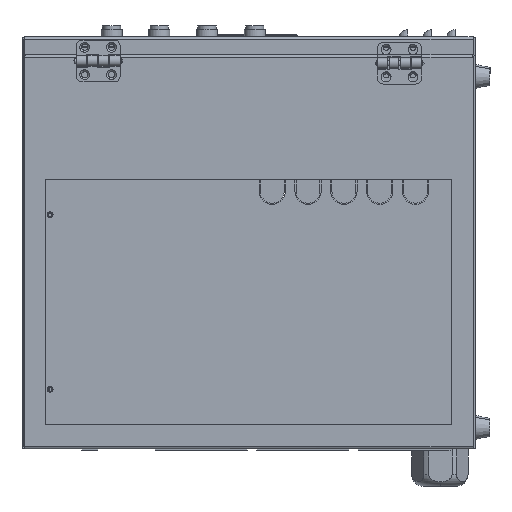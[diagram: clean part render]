
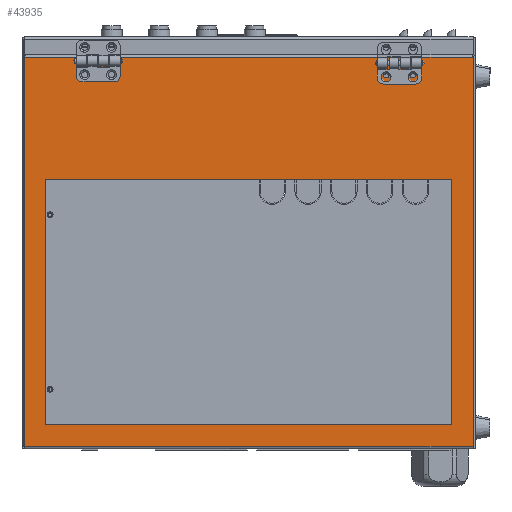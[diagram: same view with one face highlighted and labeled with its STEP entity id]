
A CAD part, left-side view. The second image highlights one B-rep face of the part: STEP entity #43935.
In plain terms, the highlighted planar face has unit normal (-1, 0, 0).
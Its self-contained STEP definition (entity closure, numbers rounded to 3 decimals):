
#479 = EDGE_CURVE ( 'NONE', #2757, #49801, #59360, .T. ) ;
#1553 = ORIENTED_EDGE ( 'NONE', *, *, #32049, .F. ) ;
#2757 = VERTEX_POINT ( 'NONE', #25045 ) ;
#3609 = ORIENTED_EDGE ( 'NONE', *, *, #24372, .T. ) ;
#3792 = PLANE ( 'NONE',  #24082 ) ;
#4038 = EDGE_LOOP ( 'NONE', ( #21659, #1553 ) ) ;
#4255 = EDGE_CURVE ( 'NONE', #49801, #2757, #48436, .T. ) ;
#4327 = CARTESIAN_POINT ( 'NONE',  ( -120., 115., 314.482 ) ) ;
#4613 = LINE ( 'NONE', #62718, #76456 ) ;
#5906 = DIRECTION ( 'NONE',  ( -1., 0., 0. ) ) ;
#6028 = CARTESIAN_POINT ( 'NONE',  ( -120., 115., 309.282 ) ) ;
#7730 = EDGE_CURVE ( 'NONE', #72537, #58974, #54452, .T. ) ;
#7774 = ORIENTED_EDGE ( 'NONE', *, *, #66032, .F. ) ;
#8261 = VECTOR ( 'NONE', #79791, 1000. ) ;
#8353 = EDGE_CURVE ( 'NONE', #13718, #29504, #71639, .T. ) ;
#9880 = ORIENTED_EDGE ( 'NONE', *, *, #8353, .F. ) ;
#10179 = CARTESIAN_POINT ( 'NONE',  ( -120., 115., 311.882 ) ) ;
#10490 = EDGE_CURVE ( 'NONE', #42834, #72487, #35672, .T. ) ;
#10493 = CARTESIAN_POINT ( 'NONE',  ( -120., 190., 0.5 ) ) ;
#13718 = VERTEX_POINT ( 'NONE', #6028 ) ;
#14315 = DIRECTION ( 'NONE',  ( -1., 0., 0. ) ) ;
#14690 = EDGE_CURVE ( 'NONE', #61534, #37778, #82266, .T. ) ;
#16486 = DIRECTION ( 'NONE',  ( -1., 0., 0. ) ) ;
#16555 = DIRECTION ( 'NONE',  ( 0., 1., 0. ) ) ;
#17074 = DIRECTION ( 'NONE',  ( 0., 0., 1. ) ) ;
#17254 = FACE_BOUND ( 'NONE', #25026, .T. ) ;
#17410 = AXIS2_PLACEMENT_3D ( 'NONE', #56005, #14315, #63031 ) ;
#17499 = ORIENTED_EDGE ( 'NONE', *, *, #4255, .F. ) ;
#17723 = DIRECTION ( 'NONE',  ( -1., 0., 0. ) ) ;
#18336 = EDGE_LOOP ( 'NONE', ( #66824, #80311, #44048, #3609 ) ) ;
#18762 = LINE ( 'NONE', #23534, #51467 ) ;
#18891 = AXIS2_PLACEMENT_3D ( 'NONE', #47555, #5906, #54537 ) ;
#19098 = CARTESIAN_POINT ( 'NONE',  ( -120., 170., 224.5 ) ) ;
#19534 = CARTESIAN_POINT ( 'NONE',  ( -120., -115., 311.882 ) ) ;
#20028 = CARTESIAN_POINT ( 'NONE',  ( -120., -170., 18.5 ) ) ;
#20076 = AXIS2_PLACEMENT_3D ( 'NONE', #66561, #24835, #73564 ) ;
#21659 = ORIENTED_EDGE ( 'NONE', *, *, #10490, .F. ) ;
#21978 = CARTESIAN_POINT ( 'NONE',  ( -120., -187.793, 326.5 ) ) ;
#23494 = ORIENTED_EDGE ( 'NONE', *, *, #51466, .F. ) ;
#23534 = CARTESIAN_POINT ( 'NONE',  ( -120., -187.793, 326.5 ) ) ;
#24082 = AXIS2_PLACEMENT_3D ( 'NONE', #66429, #80473, #38704 ) ;
#24090 = DIRECTION ( 'NONE',  ( 0., 1., 0. ) ) ;
#24372 = EDGE_CURVE ( 'NONE', #81002, #46876, #4613, .T. ) ;
#24835 = DIRECTION ( 'NONE',  ( -1., 0., 0. ) ) ;
#24846 = AXIS2_PLACEMENT_3D ( 'NONE', #74717, #32956, #81742 ) ;
#25026 = EDGE_LOOP ( 'NONE', ( #31486, #17499 ) ) ;
#25045 = CARTESIAN_POINT ( 'NONE',  ( -120., 137.5, 314.482 ) ) ;
#26539 = DIRECTION ( 'NONE',  ( 0., 0., 1. ) ) ;
#27191 = ORIENTED_EDGE ( 'NONE', *, *, #80370, .F. ) ;
#27913 = VECTOR ( 'NONE', #48568, 1000. ) ;
#27955 = DIRECTION ( 'NONE',  ( 0., 0., 1. ) ) ;
#29504 = VERTEX_POINT ( 'NONE', #4327 ) ;
#29514 = ORIENTED_EDGE ( 'NONE', *, *, #7730, .F. ) ;
#30428 = CIRCLE ( 'NONE', #44884, 2.6 ) ;
#31308 = CARTESIAN_POINT ( 'NONE',  ( -120., 187.793, 0. ) ) ;
#31486 = ORIENTED_EDGE ( 'NONE', *, *, #479, .F. ) ;
#32049 = EDGE_CURVE ( 'NONE', #72487, #42834, #55899, .T. ) ;
#32956 = DIRECTION ( 'NONE',  ( -1., 0., 0. ) ) ;
#33378 = CARTESIAN_POINT ( 'NONE',  ( -120., 170., 224.5 ) ) ;
#33981 = EDGE_CURVE ( 'NONE', #29504, #13718, #30428, .T. ) ;
#34587 = CARTESIAN_POINT ( 'NONE',  ( -120., 137.5, 309.282 ) ) ;
#35436 = EDGE_LOOP ( 'NONE', ( #7774, #27191, #29514, #67608 ) ) ;
#35534 = LINE ( 'NONE', #10493, #72618 ) ;
#35672 = CIRCLE ( 'NONE', #38353, 2.6 ) ;
#35691 = ORIENTED_EDGE ( 'NONE', *, *, #85279, .F. ) ;
#35739 = FACE_BOUND ( 'NONE', #74892, .T. ) ;
#36506 = VECTOR ( 'NONE', #89138, 1000. ) ;
#37778 = VERTEX_POINT ( 'NONE', #66308 ) ;
#38353 = AXIS2_PLACEMENT_3D ( 'NONE', #58215, #16486, #65202 ) ;
#38570 = CARTESIAN_POINT ( 'NONE',  ( -120., 187.793, 0.5 ) ) ;
#38704 = DIRECTION ( 'NONE',  ( 0., 0., -1. ) ) ;
#40176 = FACE_BOUND ( 'NONE', #62663, .T. ) ;
#41315 = LINE ( 'NONE', #72181, #76180 ) ;
#41843 = CARTESIAN_POINT ( 'NONE',  ( -120., 170., 18.5 ) ) ;
#42834 = VERTEX_POINT ( 'NONE', #57118 ) ;
#43935 = ADVANCED_FACE ( 'NONE', ( #75039, #72833, #40176, #54315, #35739, #17254 ), #3792, .F. ) ;
#44048 = ORIENTED_EDGE ( 'NONE', *, *, #75061, .F. ) ;
#44155 = CARTESIAN_POINT ( 'NONE',  ( -120., 170., 18.5 ) ) ;
#44446 = VERTEX_POINT ( 'NONE', #84267 ) ;
#44884 = AXIS2_PLACEMENT_3D ( 'NONE', #59482, #17723, #66446 ) ;
#46141 = AXIS2_PLACEMENT_3D ( 'NONE', #10179, #58816, #17074 ) ;
#46167 = VERTEX_POINT ( 'NONE', #19098 ) ;
#46876 = VERTEX_POINT ( 'NONE', #21978 ) ;
#47555 = CARTESIAN_POINT ( 'NONE',  ( -120., -137.5, 311.882 ) ) ;
#48436 = CIRCLE ( 'NONE', #20076, 2.6 ) ;
#48568 = DIRECTION ( 'NONE',  ( 0., 0., -1. ) ) ;
#49094 = CIRCLE ( 'NONE', #18891, 2.6 ) ;
#49801 = VERTEX_POINT ( 'NONE', #34587 ) ;
#50434 = VERTEX_POINT ( 'NONE', #88511 ) ;
#51142 = AXIS2_PLACEMENT_3D ( 'NONE', #19534, #68261, #26539 ) ;
#51466 = EDGE_CURVE ( 'NONE', #50434, #71452, #49094, .T. ) ;
#51467 = VECTOR ( 'NONE', #16555, 1000. ) ;
#53784 = CARTESIAN_POINT ( 'NONE',  ( -120., -137.5, 309.282 ) ) ;
#54315 = FACE_BOUND ( 'NONE', #4038, .T. ) ;
#54452 = LINE ( 'NONE', #61684, #89297 ) ;
#54537 = DIRECTION ( 'NONE',  ( 0., 0., 1. ) ) ;
#55899 = CIRCLE ( 'NONE', #51142, 2.6 ) ;
#56005 = CARTESIAN_POINT ( 'NONE',  ( -120., 137.5, 311.882 ) ) ;
#57118 = CARTESIAN_POINT ( 'NONE',  ( -120., -115., 314.482 ) ) ;
#57612 = CIRCLE ( 'NONE', #24846, 2.6 ) ;
#58215 = CARTESIAN_POINT ( 'NONE',  ( -120., -115., 311.882 ) ) ;
#58499 = ORIENTED_EDGE ( 'NONE', *, *, #33981, .F. ) ;
#58816 = DIRECTION ( 'NONE',  ( -1., 0., 0. ) ) ;
#58974 = VERTEX_POINT ( 'NONE', #20028 ) ;
#59360 = CIRCLE ( 'NONE', #17410, 2.6 ) ;
#59482 = CARTESIAN_POINT ( 'NONE',  ( -120., 115., 311.882 ) ) ;
#61534 = VERTEX_POINT ( 'NONE', #38570 ) ;
#61684 = CARTESIAN_POINT ( 'NONE',  ( -120., 170., 18.5 ) ) ;
#62663 = EDGE_LOOP ( 'NONE', ( #23494, #35691 ) ) ;
#62718 = CARTESIAN_POINT ( 'NONE',  ( -120., -187.793, 0. ) ) ;
#63031 = DIRECTION ( 'NONE',  ( 0., 0., 1. ) ) ;
#64957 = EDGE_CURVE ( 'NONE', #46167, #72537, #81368, .T. ) ;
#65202 = DIRECTION ( 'NONE',  ( 0., 0., 1. ) ) ;
#66032 = EDGE_CURVE ( 'NONE', #44446, #46167, #75792, .T. ) ;
#66308 = CARTESIAN_POINT ( 'NONE',  ( -120., 187.793, 326.5 ) ) ;
#66429 = CARTESIAN_POINT ( 'NONE',  ( -120., 0., 0. ) ) ;
#66446 = DIRECTION ( 'NONE',  ( 0., 0., 1. ) ) ;
#66561 = CARTESIAN_POINT ( 'NONE',  ( -120., 137.5, 311.882 ) ) ;
#66824 = ORIENTED_EDGE ( 'NONE', *, *, #82683, .T. ) ;
#67608 = ORIENTED_EDGE ( 'NONE', *, *, #64957, .F. ) ;
#68261 = DIRECTION ( 'NONE',  ( -1., 0., 0. ) ) ;
#68420 = CARTESIAN_POINT ( 'NONE',  ( -120., -187.793, 0.5 ) ) ;
#68639 = DIRECTION ( 'NONE',  ( 0., -1., 0. ) ) ;
#71452 = VERTEX_POINT ( 'NONE', #53784 ) ;
#71639 = CIRCLE ( 'NONE', #46141, 2.6 ) ;
#72181 = CARTESIAN_POINT ( 'NONE',  ( -120., -170., 18.5 ) ) ;
#72487 = VERTEX_POINT ( 'NONE', #84339 ) ;
#72537 = VERTEX_POINT ( 'NONE', #44155 ) ;
#72618 = VECTOR ( 'NONE', #24090, 1000. ) ;
#72833 = FACE_OUTER_BOUND ( 'NONE', #18336, .T. ) ;
#73564 = DIRECTION ( 'NONE',  ( 0., 0., 1. ) ) ;
#74717 = CARTESIAN_POINT ( 'NONE',  ( -120., -137.5, 311.882 ) ) ;
#74892 = EDGE_LOOP ( 'NONE', ( #58499, #9880 ) ) ;
#75039 = FACE_BOUND ( 'NONE', #35436, .T. ) ;
#75061 = EDGE_CURVE ( 'NONE', #81002, #61534, #35534, .T. ) ;
#75792 = LINE ( 'NONE', #33378, #36506 ) ;
#76180 = VECTOR ( 'NONE', #79558, 1000. ) ;
#76456 = VECTOR ( 'NONE', #27955, 1000. ) ;
#79558 = DIRECTION ( 'NONE',  ( 0., 0., 1. ) ) ;
#79791 = DIRECTION ( 'NONE',  ( 0., 0., 1. ) ) ;
#80311 = ORIENTED_EDGE ( 'NONE', *, *, #14690, .F. ) ;
#80370 = EDGE_CURVE ( 'NONE', #58974, #44446, #41315, .T. ) ;
#80473 = DIRECTION ( 'NONE',  ( 1., 0., 0. ) ) ;
#81002 = VERTEX_POINT ( 'NONE', #68420 ) ;
#81368 = LINE ( 'NONE', #41843, #27913 ) ;
#81742 = DIRECTION ( 'NONE',  ( 0., 0., 1. ) ) ;
#82266 = LINE ( 'NONE', #31308, #8261 ) ;
#82683 = EDGE_CURVE ( 'NONE', #46876, #37778, #18762, .T. ) ;
#84267 = CARTESIAN_POINT ( 'NONE',  ( -120., -170., 224.5 ) ) ;
#84339 = CARTESIAN_POINT ( 'NONE',  ( -120., -115., 309.282 ) ) ;
#85279 = EDGE_CURVE ( 'NONE', #71452, #50434, #57612, .T. ) ;
#88511 = CARTESIAN_POINT ( 'NONE',  ( -120., -137.5, 314.482 ) ) ;
#89138 = DIRECTION ( 'NONE',  ( 0., 1., 0. ) ) ;
#89297 = VECTOR ( 'NONE', #68639, 1000. ) ;
